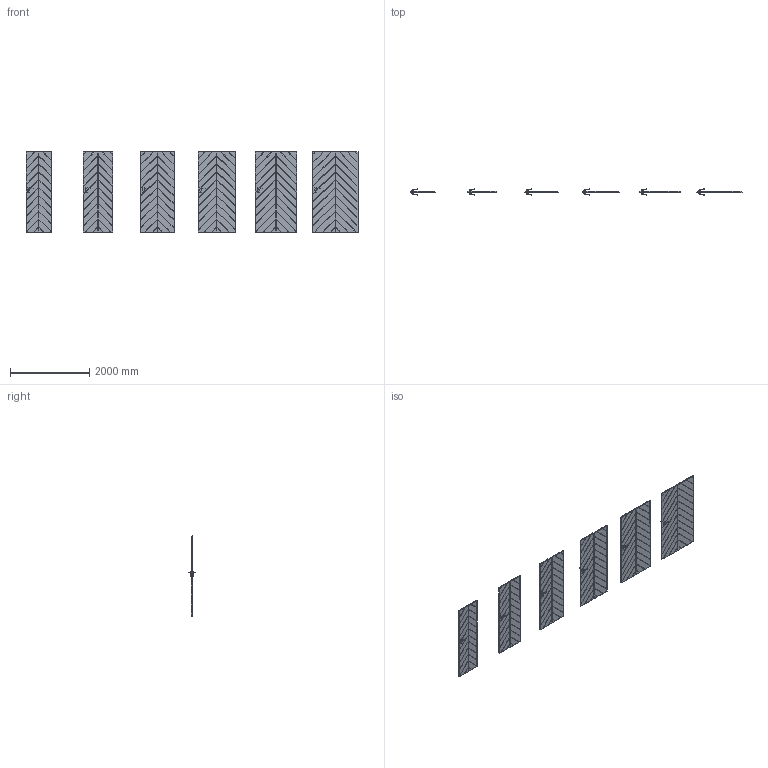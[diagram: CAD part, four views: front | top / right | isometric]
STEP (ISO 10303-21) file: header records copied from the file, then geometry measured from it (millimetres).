
FILE_DESCRIPTION(/* description */ (''),/* implementation_level */ '2;1');
FILE_NAME(/* name */ '049693_A_2-Skrzydło VECTOR J_ polska norma _PN__ przylgowe..stp',/* time_stamp */ '2024-02-09T12:43:57+01:00',/* author */ (''),/* organization */ (''),/* preprocessor_version */ 'ST-DEVELOPER v16',/* originating_system */ 'SIEMENS PLM Software NX 11.0',/* authorisation */ '');
FILE_SCHEMA (('AUTOMOTIVE_DESIGN { 1 0 10303 214 3 1 1 1 }'));
Products named in the file (1): bkni8EE4756Al2yz
Bounding box: 8394 x 153.27 x 2030 mm (x, y, z)
Volume: 417833472.1 mm3; surface area: 23514204.2 mm2
Topology: 30 solids, 30 shells, 4004 faces, 10344 edges, 6280 vertices
Faces by surface type: cylinder 1968, plane 1676, bspline 192, sphere 168
Entity records: 126400 total; most frequent: CARTESIAN_POINT 28885, DIRECTION 20610, ORIENTED_EDGE 20352, EDGE_CURVE 10176, AXIS2_PLACEMENT_3D 6981, LINE 6648, VECTOR 6648, VERTEX_POINT 6280
